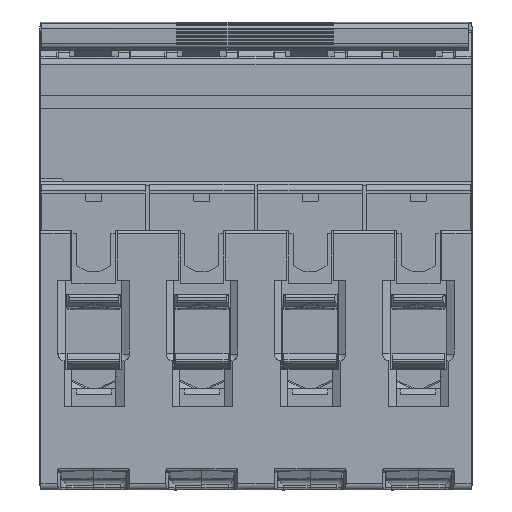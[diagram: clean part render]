
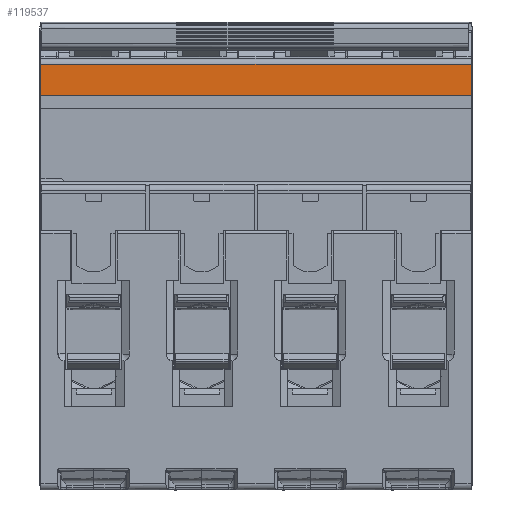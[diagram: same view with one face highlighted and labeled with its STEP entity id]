
A CAD part, front view. The second image highlights one B-rep face of the part: STEP entity #119537.
In plain terms, the highlighted planar face has unit normal (0, -1, 0).
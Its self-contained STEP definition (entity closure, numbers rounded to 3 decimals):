
#24918 = EDGE_CURVE ( 'NONE', #42590, #102949, #121574, .T. ) ;
#24922 = EDGE_CURVE ( 'NONE', #102940, #42593, #121591, .T. ) ;
#24953 = EDGE_CURVE ( 'NONE', #102940, #102949, #121629, .T. ) ;
#27065 = EDGE_CURVE ( 'NONE', #42590, #42593, #182871, .T. ) ;
#42590 = VERTEX_POINT ( 'NONE', #78398 ) ;
#42593 = VERTEX_POINT ( 'NONE', #78400 ) ;
#68546 = VECTOR ( 'NONE', #182880, 1000. ) ;
#69048 = VECTOR ( 'NONE', #121600, 1000. ) ;
#69616 = VECTOR ( 'NONE', #121642, 1000. ) ;
#70015 = VECTOR ( 'NONE', #121595, 1000. ) ;
#78398 = CARTESIAN_POINT ( 'NONE',  ( 66.443, -14.233, 31.649 ) ) ;
#78400 = CARTESIAN_POINT ( 'NONE',  ( -3.557, -14.233, 31.649 ) ) ;
#102940 = VERTEX_POINT ( 'NONE', #200974 ) ;
#102949 = VERTEX_POINT ( 'NONE', #200985 ) ;
#119537 = ADVANCED_FACE ( 'NONE', ( #236559 ), #236675, .T. ) ;
#121572 = CARTESIAN_POINT ( 'NONE',  ( 66.443, -14.233, -31.351 ) ) ;
#121574 = LINE ( 'NONE', #121572, #70015 ) ;
#121589 = CARTESIAN_POINT ( 'NONE',  ( -3.557, -14.233, -31.351 ) ) ;
#121591 = LINE ( 'NONE', #121589, #69048 ) ;
#121595 = DIRECTION ( 'NONE',  ( 0., 0., -1. ) ) ;
#121600 = DIRECTION ( 'NONE',  ( 0., 0., 1. ) ) ;
#121629 = LINE ( 'NONE', #121637, #69616 ) ;
#121637 = CARTESIAN_POINT ( 'NONE',  ( 13.843, -14.233, 26.649 ) ) ;
#121642 = DIRECTION ( 'NONE',  ( 1., 0., 0. ) ) ;
#159114 = ORIENTED_EDGE ( 'NONE', *, *, #27065, .T. ) ;
#159117 = ORIENTED_EDGE ( 'NONE', *, *, #24922, .F. ) ;
#159120 = ORIENTED_EDGE ( 'NONE', *, *, #24953, .T. ) ;
#159122 = ORIENTED_EDGE ( 'NONE', *, *, #24918, .F. ) ;
#176027 = EDGE_LOOP ( 'NONE', ( #159114, #159117, #159120, #159122 ) ) ;
#182871 = LINE ( 'NONE', #182877, #68546 ) ;
#182877 = CARTESIAN_POINT ( 'NONE',  ( 13.843, -14.233, 31.649 ) ) ;
#182880 = DIRECTION ( 'NONE',  ( -1., 0., 0. ) ) ;
#200974 = CARTESIAN_POINT ( 'NONE',  ( -3.557, -14.233, 26.649 ) ) ;
#200985 = CARTESIAN_POINT ( 'NONE',  ( 66.443, -14.233, 26.649 ) ) ;
#214915 = AXIS2_PLACEMENT_3D ( 'NONE', #236711, #236714, #236716 ) ;
#236559 = FACE_OUTER_BOUND ( 'NONE', #176027, .T. ) ;
#236675 = PLANE ( 'NONE',  #214915 ) ;
#236711 = CARTESIAN_POINT ( 'NONE',  ( 13.843, -14.233, 12.549 ) ) ;
#236714 = DIRECTION ( 'NONE',  ( 0., -1., 0. ) ) ;
#236716 = DIRECTION ( 'NONE',  ( 1., 0., 0. ) ) ;
